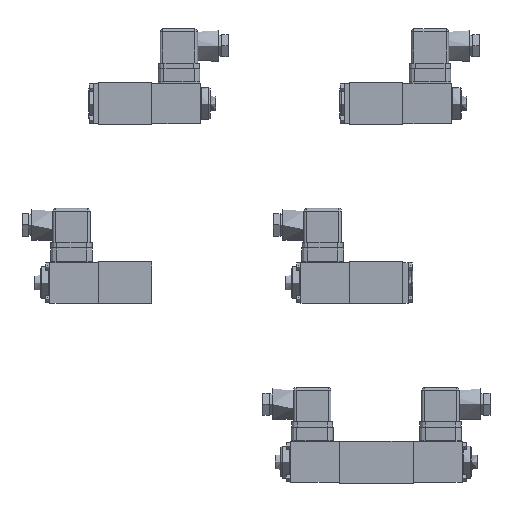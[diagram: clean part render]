
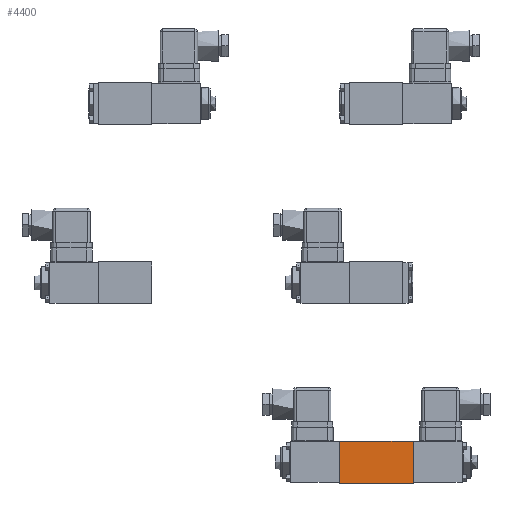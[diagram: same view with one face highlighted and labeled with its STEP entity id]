
A CAD part, front view. The second image highlights one B-rep face of the part: STEP entity #4400.
In plain terms, the highlighted planar face has unit normal (0, -1, 0).
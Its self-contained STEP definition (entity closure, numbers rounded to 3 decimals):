
#4400=ADVANCED_FACE('', (#4410), #4420, .T.);
#58790=AXIS2_PLACEMENT_3D('Ax2Pl3d', #58800, #58810, #58820);
#199930=CARTESIAN_POINT('', (0.,0.,30.));
#199940=CARTESIAN_POINT('', (53.,0.,30.));
#199950=CARTESIAN_POINT('', (53.,0.,30.));
#200050=CARTESIAN_POINT('', (0.,0.,30.));
#200060=CARTESIAN_POINT('', (0.,0.,0.));
#200160=CARTESIAN_POINT('', (53.,0.,0.));
#200190=CARTESIAN_POINT('', (53.,0.,30.));
#200250=CARTESIAN_POINT('', (53.,0.,0.));
#58800=CARTESIAN_POINT('HicPkt', (0.,0.,
0.));
#350050=DIRECTION('', (1.,0.,0.));
#350080=DIRECTION('', (0.,0.,1.));
#350130=DIRECTION('', (0.,0.,1.));
#350140=DIRECTION('', (1.,0.,0.));
#58810=DIRECTION('Axis', (0.,-1.,
0.));
#58820=DIRECTION('RefDirection', (0.,
0.,-1.));
#368420=EDGE_CURVE('', #368400, #368430, #368440, .T.);
#368620=EDGE_CURVE('', #368630, #368400, #368640, .T.);
#368860=EDGE_CURVE('', #368810, #368430, #368870, .T.);
#368980=EDGE_CURVE('', #368630, #368810, #368990, .T.);
#436170=EDGE_LOOP('Edge_loop', (#436180,#436190,#436200,#436210));
#4410=FACE_OUTER_BOUND('Face_outer_bound', #436170, .T.);
#368440=LINE('Line', #199940, #547720);
#368640=LINE('Line', #200050, #547750);
#368870=LINE('Line', #200190, #547800);
#368990=LINE('Line', #200250, #547810);
#436180=ORIENTED_EDGE('', *, *, #368980, .T.);
#436190=ORIENTED_EDGE('', *, *, #368860, .T.);
#436200=ORIENTED_EDGE('', *, *, #368420, .F.);
#436210=ORIENTED_EDGE('', *, *, #368620, .F.);
#4420=PLANE('Plane', #58790);
#547720=VECTOR('', #350050, 53.);
#547750=VECTOR('', #350080, 30.);
#547800=VECTOR('', #350130, 30.);
#547810=VECTOR('', #350140, 53.);
#368400=VERTEX_POINT('', #199930);
#368430=VERTEX_POINT('', #199950);
#368630=VERTEX_POINT('', #200060);
#368810=VERTEX_POINT('', #200160);
